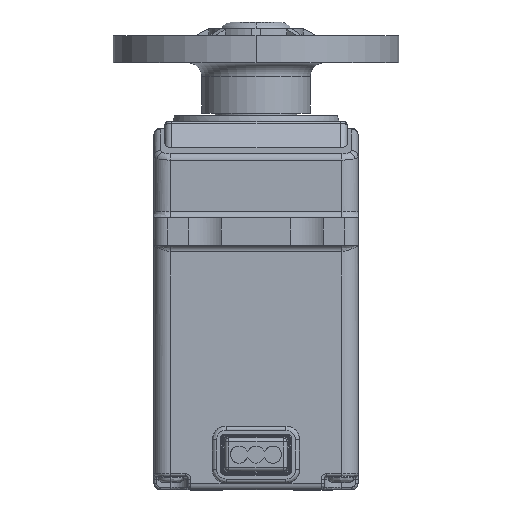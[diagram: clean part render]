
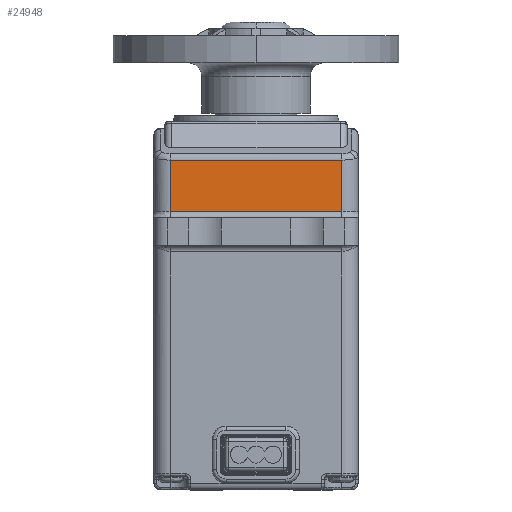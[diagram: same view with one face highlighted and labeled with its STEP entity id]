
A CAD part, front view. The second image highlights one B-rep face of the part: STEP entity #24948.
In plain terms, the highlighted planar face has unit normal (0, -1, 0).
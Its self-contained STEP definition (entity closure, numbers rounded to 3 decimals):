
#2450 = DIRECTION ( 'NONE',  ( 1., 0., 0. ) ) ;
#5288 = CARTESIAN_POINT ( 'NONE',  ( -6.615, -9.25, -6.694 ) ) ;
#9059 = DIRECTION ( 'NONE',  ( -1., 0., 0. ) ) ;
#10357 = CARTESIAN_POINT ( 'NONE',  ( -6.3, -9.25, -2.85 ) ) ;
#10850 = LINE ( 'NONE', #37361, #38144 ) ;
#13474 = ORIENTED_EDGE ( 'NONE', *, *, #14335, .T. ) ;
#14014 = EDGE_CURVE ( 'NONE', #33422, #41881, #37381, .T. ) ;
#14335 = EDGE_CURVE ( 'NONE', #41881, #40414, #16941, .T. ) ;
#15549 = EDGE_CURVE ( 'NONE', #32403, #40414, #44432, .T. ) ;
#16941 = LINE ( 'NONE', #20017, #44610 ) ;
#17758 = DIRECTION ( 'NONE',  ( 0., 0., 1. ) ) ;
#18563 = VECTOR ( 'NONE', #44679, 1000. ) ;
#20017 = CARTESIAN_POINT ( 'NONE',  ( -6.615, -9.25, -2.85 ) ) ;
#21075 = FACE_OUTER_BOUND ( 'NONE', #46813, .T. ) ;
#22081 = CARTESIAN_POINT ( 'NONE',  ( 6.3, -9.25, -6.694 ) ) ;
#22214 = CARTESIAN_POINT ( 'NONE',  ( -6.3, -9.25, -6.7 ) ) ;
#22540 = ORIENTED_EDGE ( 'NONE', *, *, #28437, .T. ) ;
#24660 = PLANE ( 'NONE',  #44711 ) ;
#24948 = ADVANCED_FACE ( 'NONE', ( #21075 ), #24660, .T. ) ;
#27893 = ORIENTED_EDGE ( 'NONE', *, *, #14014, .T. ) ;
#28437 = EDGE_CURVE ( 'NONE', #32403, #33422, #10850, .T. ) ;
#28745 = CARTESIAN_POINT ( 'NONE',  ( 6.3, -9.25, -2.85 ) ) ;
#32021 = CARTESIAN_POINT ( 'NONE',  ( 6.3, -9.25, -6.6 ) ) ;
#32403 = VERTEX_POINT ( 'NONE', #45631 ) ;
#33422 = VERTEX_POINT ( 'NONE', #32021 ) ;
#35165 = VECTOR ( 'NONE', #17758, 1000. ) ;
#36891 = DIRECTION ( 'NONE',  ( 0., -1., 0. ) ) ;
#37361 = CARTESIAN_POINT ( 'NONE',  ( -6.615, -9.25, -6.6 ) ) ;
#37381 = LINE ( 'NONE', #22081, #35165 ) ;
#38144 = VECTOR ( 'NONE', #2450, 1000. ) ;
#40414 = VERTEX_POINT ( 'NONE', #10357 ) ;
#41881 = VERTEX_POINT ( 'NONE', #28745 ) ;
#44432 = LINE ( 'NONE', #22214, #18563 ) ;
#44610 = VECTOR ( 'NONE', #9059, 1000. ) ;
#44679 = DIRECTION ( 'NONE',  ( 0., 0., 1. ) ) ;
#44711 = AXIS2_PLACEMENT_3D ( 'NONE', #5288, #36891, #44787 ) ;
#44787 = DIRECTION ( 'NONE',  ( 0., 0., -1. ) ) ;
#45283 = ORIENTED_EDGE ( 'NONE', *, *, #15549, .F. ) ;
#45631 = CARTESIAN_POINT ( 'NONE',  ( -6.3, -9.25, -6.6 ) ) ;
#46813 = EDGE_LOOP ( 'NONE', ( #45283, #22540, #27893, #13474 ) ) ;
